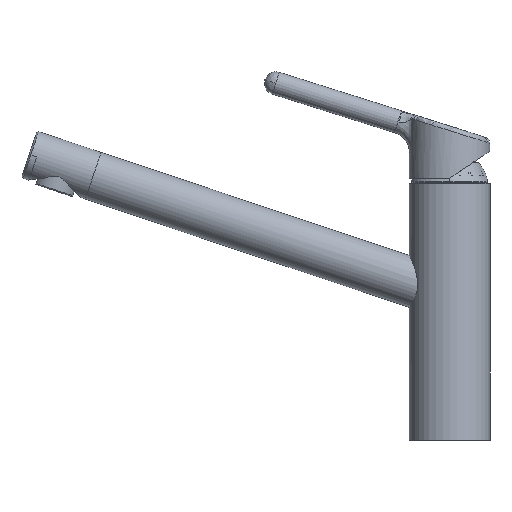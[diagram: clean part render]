
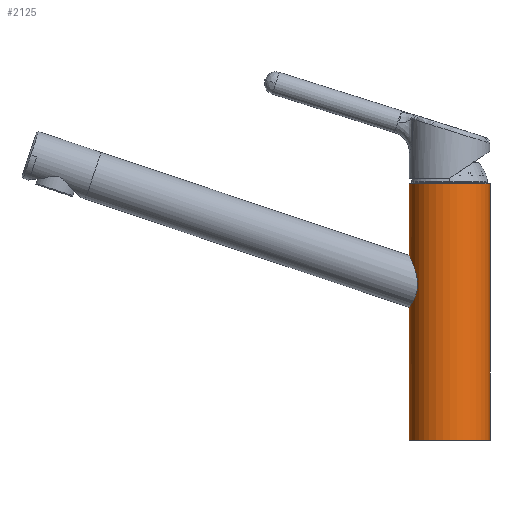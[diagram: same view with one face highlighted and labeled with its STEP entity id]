
A CAD part, left-side view. The second image highlights one B-rep face of the part: STEP entity #2125.
In plain terms, the highlighted cylindrical face has radius 23 mm (diameter 46 mm), a partial arc.
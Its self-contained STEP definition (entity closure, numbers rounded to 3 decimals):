
#140=TRIMMED_CURVE($,#700,(#30306),(#30307),.T.,.CARTESIAN.);
#141=TRIMMED_CURVE($,#701,(#30309),(#30310),.T.,.CARTESIAN.);
#142=TRIMMED_CURVE($,#702,(#30314),(#30315),.T.,.CARTESIAN.);
#143=TRIMMED_CURVE($,#703,(#30319),(#30320),.T.,.CARTESIAN.);
#700=CIRCLE('',#21496,23.);
#701=CIRCLE('',#21497,23.);
#702=CIRCLE('',#21498,23.);
#703=CIRCLE('',#21499,23.);
#1238=CYLINDRICAL_SURFACE('',#21463,23.);
#2125=ADVANCED_FACE('',(#3260),#1238,.T.);
#3260=FACE_OUTER_BOUND('',#4410,.T.);
#4410=EDGE_LOOP('',(#6824,#6825,#6826,#6827,#6828,#6829,#6830,#6831));
#6824=ORIENTED_EDGE('',*,*,#12142,.T.);
#6825=ORIENTED_EDGE('',*,*,#12148,.T.);
#6826=ORIENTED_EDGE('',*,*,#12147,.T.);
#6827=ORIENTED_EDGE('',*,*,#12146,.T.);
#6828=ORIENTED_EDGE('',*,*,#12145,.T.);
#6829=ORIENTED_EDGE('',*,*,#12144,.T.);
#6830=ORIENTED_EDGE('',*,*,#12143,.T.);
#6831=ORIENTED_EDGE('',*,*,#12215,.T.);
#12142=EDGE_CURVE('',#17361,#17362,#140,.T.);
#12143=EDGE_CURVE('',#17364,#17363,#141,.T.);
#12144=EDGE_CURVE('',#17365,#17364,#15106,.T.);
#12145=EDGE_CURVE('',#17366,#17365,#142,.T.);
#12146=EDGE_CURVE('',#17358,#17366,#15107,.T.);
#12147=EDGE_CURVE('',#17357,#17358,#143,.T.);
#12148=EDGE_CURVE('',#17362,#17357,#15108,.T.);
#12215=EDGE_CURVE('',#17363,#17361,#15139,.T.);
#15106=B_SPLINE_CURVE_WITH_KNOTS('',1,(#30311,#30312),.UNSPECIFIED.,.F.,
 .F.,(2,2),(-48.7,0.),.UNSPECIFIED.);
#15107=B_SPLINE_CURVE_WITH_KNOTS('',1,(#30316,#30317),.UNSPECIFIED.,.F.,
 .F.,(2,2),(-146.2,0.),.UNSPECIFIED.);
#15108=B_SPLINE_CURVE_WITH_KNOTS('',1,(#30321,#30322),.UNSPECIFIED.,.F.,
 .F.,(2,2),(-87.5,0.),.UNSPECIFIED.);
#15139=B_SPLINE_CURVE_WITH_KNOTS('',3,(#30565,#30566,#30567,#30568,#30569,
#30570,#30571,#30572,#30573,#30574,#30575,#30576,#30577,#30578,#30579,#30580,
#30581,#30582,#30583,#30584,#30585,#30586,#30587,#30588,#30589,#30590),
 .UNSPECIFIED.,.F.,.F.,(4,1,1,1,1,1,1,1,1,1,1,1,1,1,1,1,1,1,1,1,1,1,1,4),
(0.,0.698,1.397,2.095,2.793,
3.491,4.19,4.888,5.586,6.285,
6.983,7.681,8.379,9.078,9.776,
10.474,11.173,11.871,12.569,13.267,
13.966,14.664,15.362,16.06),
 .UNSPECIFIED.);
#17357=VERTEX_POINT('',#30235);
#17358=VERTEX_POINT('',#30236);
#17361=VERTEX_POINT('',#30239);
#17362=VERTEX_POINT('',#30240);
#17363=VERTEX_POINT('',#30241);
#17364=VERTEX_POINT('',#30242);
#17365=VERTEX_POINT('',#30243);
#17366=VERTEX_POINT('',#30244);
#21463=AXIS2_PLACEMENT_3D('',#29770,#23072,$);
#21496=AXIS2_PLACEMENT_3D($,#30305,#23105,#23106);
#21497=AXIS2_PLACEMENT_3D($,#30308,#23107,#23108);
#21498=AXIS2_PLACEMENT_3D($,#30313,#23109,#23110);
#21499=AXIS2_PLACEMENT_3D($,#30318,#23111,#23112);
#23072=DIRECTION('',(0.,1.,0.));
#23105=DIRECTION('',(0.,-1.,0.));
#23106=DIRECTION('',(0.985,0.,-0.174));
#23107=DIRECTION('',(0.,1.,0.));
#23108=DIRECTION('',(1.,0.,0.));
#23109=DIRECTION('',(0.,-1.,0.));
#23110=DIRECTION('',(-1.,0.,0.));
#23111=DIRECTION('',(0.,1.,0.));
#23112=DIRECTION('',(1.,0.,0.));
#29770=CARTESIAN_POINT('',(0.,73.1,0.));
#30235=CARTESIAN_POINT('',(23.,0.,0.));
#30236=CARTESIAN_POINT('',(-23.,0.,0.));
#30239=CARTESIAN_POINT('',(22.65,87.5,-4.));
#30240=CARTESIAN_POINT('',(23.,87.5,0.));
#30241=CARTESIAN_POINT('',(22.65,97.5,-4.));
#30242=CARTESIAN_POINT('',(23.,97.5,0.));
#30243=CARTESIAN_POINT('',(23.,146.2,0.));
#30244=CARTESIAN_POINT('',(-23.,146.2,0.));
#30305=CARTESIAN_POINT('',(0.,87.5,0.));
#30306=CARTESIAN_POINT('',(22.65,87.5,-4.));
#30307=CARTESIAN_POINT('',(23.,87.5,0.));
#30308=CARTESIAN_POINT('',(0.,97.5,0.));
#30309=CARTESIAN_POINT('',(23.,97.5,0.));
#30310=CARTESIAN_POINT('',(22.65,97.5,-4.));
#30311=CARTESIAN_POINT('',(23.,146.2,0.));
#30312=CARTESIAN_POINT('',(23.,97.5,0.));
#30313=CARTESIAN_POINT('',(0.,146.2,0.));
#30314=CARTESIAN_POINT('',(-23.,146.2,0.));
#30315=CARTESIAN_POINT('',(23.,146.2,0.));
#30316=CARTESIAN_POINT('',(-23.,0.,0.));
#30317=CARTESIAN_POINT('',(-23.,146.2,0.));
#30318=CARTESIAN_POINT('',(0.,0.,0.));
#30319=CARTESIAN_POINT('',(23.,0.,0.));
#30320=CARTESIAN_POINT('',(-23.,0.,0.));
#30321=CARTESIAN_POINT('',(23.,87.5,0.));
#30322=CARTESIAN_POINT('',(23.,0.,0.));
#30565=CARTESIAN_POINT('',(22.65,97.5,-4.));
#30566=CARTESIAN_POINT('',(22.609,97.5,-4.228));
#30567=CARTESIAN_POINT('',(22.521,97.469,-4.686));
#30568=CARTESIAN_POINT('',(22.369,97.327,-5.364));
#30569=CARTESIAN_POINT('',(22.201,97.091,-6.022));
#30570=CARTESIAN_POINT('',(22.022,96.763,-6.644));
#30571=CARTESIAN_POINT('',(21.842,96.351,-7.215));
#30572=CARTESIAN_POINT('',(21.668,95.865,-7.72));
#30573=CARTESIAN_POINT('',(21.51,95.32,-8.148));
#30574=CARTESIAN_POINT('',(21.376,94.731,-8.492));
#30575=CARTESIAN_POINT('',(21.271,94.111,-8.749));
#30576=CARTESIAN_POINT('',(21.2,93.473,-8.919));
#30577=CARTESIAN_POINT('',(21.165,92.825,-9.004));
#30578=CARTESIAN_POINT('',(21.165,92.175,-9.004));
#30579=CARTESIAN_POINT('',(21.2,91.527,-8.919));
#30580=CARTESIAN_POINT('',(21.271,90.889,-8.749));
#30581=CARTESIAN_POINT('',(21.376,90.269,-8.492));
#30582=CARTESIAN_POINT('',(21.51,89.68,-8.148));
#30583=CARTESIAN_POINT('',(21.668,89.135,-7.72));
#30584=CARTESIAN_POINT('',(21.842,88.649,-7.215));
#30585=CARTESIAN_POINT('',(22.022,88.237,-6.644));
#30586=CARTESIAN_POINT('',(22.201,87.909,-6.022));
#30587=CARTESIAN_POINT('',(22.369,87.673,-5.364));
#30588=CARTESIAN_POINT('',(22.521,87.531,-4.686));
#30589=CARTESIAN_POINT('',(22.609,87.5,-4.228));
#30590=CARTESIAN_POINT('',(22.65,87.5,-4.));
